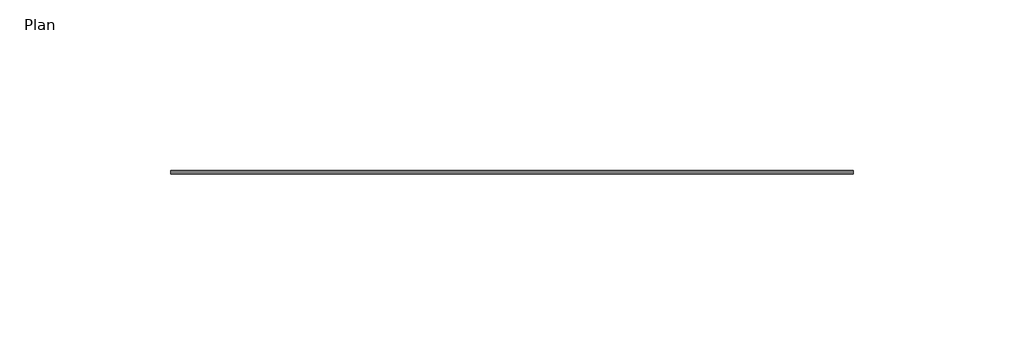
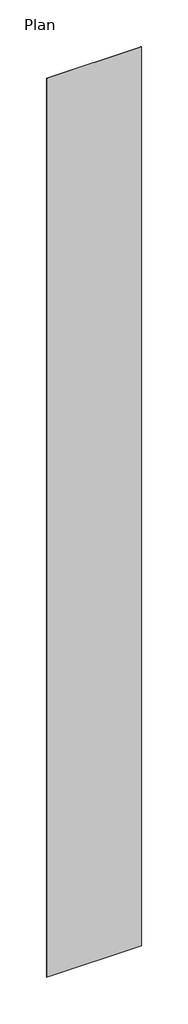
# One storey: 1 proxy.
"""IFC4 building model written with IfcOpenShell, lengths in millimetres."""

from ifc_helpers import new_model, si_unit, origin, place, context, project, spatial, transform, mapped, element, save
from components import generic_models_0b0e4c18

model = new_model("IFC4")

# Units and contexts
model_context = context("Model", 3, world=origin())
ifc_project = project(units=[si_unit("LENGTHUNIT", "METRE", prefix="MILLI")], contexts=[model_context])

# Site, building, storey
site = spatial("IfcSite", under=ifc_project)
building = spatial("IfcBuilding", under=site)
storey = spatial("IfcBuildingStorey", under=building, Name="Plan", Elevation=0.0)

# Proxy
placement = place(None, origin())
generic_models_shape = generic_models_0b0e4c18(model_context)
element("IfcBuildingElementProxy", 1, Name="AQUAPANEL showcase solid : AQUAPANEL showcase solid", ObjectType="AQUAPANEL showcase solid : AQUAPANEL showcase solid", at=placement, inside=storey, context=model_context, shape_type="MappedRepresentation", body=[
    mapped(generic_models_shape, transform((0.0, 0.0, 0.0), x_axis=(1.0, 0.0, 0.0), y_axis=(0.0, 1.0, 0.0), z_axis=(0.0, 0.0, 1.0))),
])

save(model, "model.ifc")
